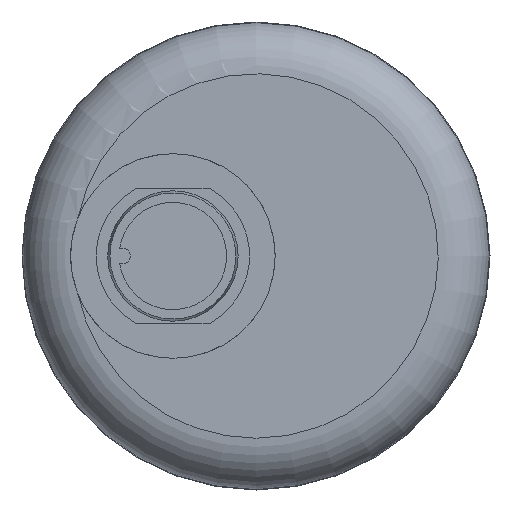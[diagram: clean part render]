
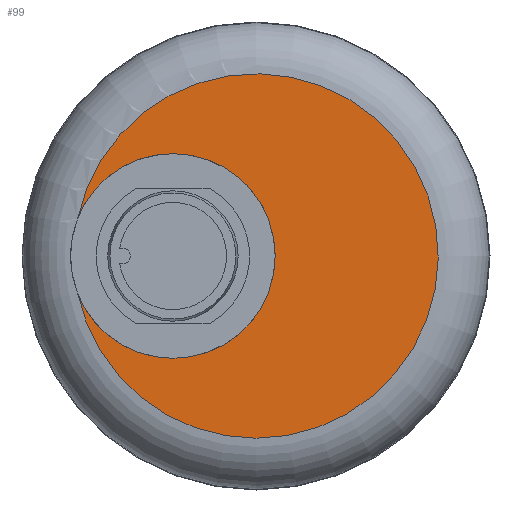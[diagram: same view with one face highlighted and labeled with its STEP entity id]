
A CAD part, left-side view. The second image highlights one B-rep face of the part: STEP entity #99.
In plain terms, the highlighted planar face has unit normal (-1, 0, 0).
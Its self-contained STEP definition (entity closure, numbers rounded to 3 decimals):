
#99 = ADVANCED_FACE( '', ( #177 ), #178, .F. );
#177 = FACE_OUTER_BOUND( '', #286, .T. );
#178 = PLANE( '', #287 );
#286 = EDGE_LOOP( '', ( #482, #483 ) );
#287 = AXIS2_PLACEMENT_3D( '', #484, #485, #486 );
#482 = ORIENTED_EDGE( '', *, *, #625, .F. );
#483 = ORIENTED_EDGE( '', *, *, #623, .T. );
#484 = CARTESIAN_POINT( '', ( 13., 0., 0. ) );
#485 = DIRECTION( '', ( 1., 0., 0. ) );
#486 = DIRECTION( '', ( 0., 0., -1. ) );
#623 = EDGE_CURVE( '', #715, #714, #717, .T. );
#625 = EDGE_CURVE( '', #715, #714, #719, .T. );
#714 = VERTEX_POINT( '', #843 );
#715 = VERTEX_POINT( '', #844 );
#717 = CIRCLE( '', #846, 8. );
#719 = CIRCLE( '', #848, 14.25 );
#843 = CARTESIAN_POINT( '', ( 13., 13.947, -2.922 ) );
#844 = CARTESIAN_POINT( '', ( 13., 13.947, 2.922 ) );
#846 = AXIS2_PLACEMENT_3D( '', #962, #963, #964 );
#848 = AXIS2_PLACEMENT_3D( '', #968, #969, #970 );
#962 = CARTESIAN_POINT( '', ( 13., 6.5, 0. ) );
#963 = DIRECTION( '', ( 1., 0., 0. ) );
#964 = DIRECTION( '', ( 0., 0., -1. ) );
#968 = CARTESIAN_POINT( '', ( 13., 0., 0. ) );
#969 = DIRECTION( '', ( 1., 0., 0. ) );
#970 = DIRECTION( '', ( 0., 0., -1. ) );
